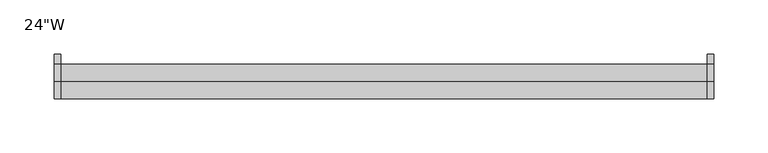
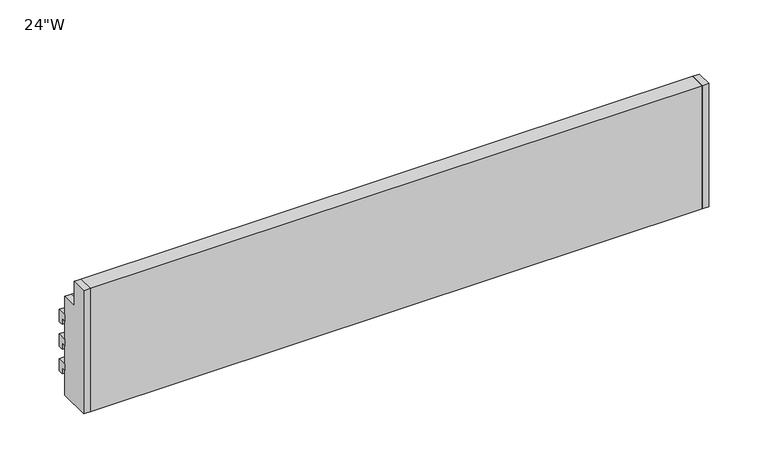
"""IFC4 building model written with IfcOpenShell, lengths in millimetres: furniture geometry."""

from ifc_helpers import new_model, si_unit, frame, origin, place, context, project, spatial, polyline, outline, extrude, source, transform, mapped, element, save


def furniture_abf02616(model_context):
    return source(origin(), model_context, "Body", "SweptSolid", [
        extrude(outline(polyline([(25.4, 349.25), (25.4, 336.55), (20.6375, 336.55), (20.6375, 342.9), (15.875, 342.9), (15.875, 349.25), (25.4, 349.25)])), frame((-304.8, 0.0, 0.0), z_axis=(1.0, 0.0, 0.0), x_axis=(0.0, 1.0, 0.0)), (0.0, 0.0, 1.0), 6.35),
        extrude(outline(polyline([(25.4, 323.85), (25.4, 311.15), (20.6375, 311.15), (20.6375, 317.5), (15.875, 317.5), (15.875, 323.85), (25.4, 323.85)])), frame((-304.8, 0.0, 0.0), z_axis=(1.0, 0.0, 0.0), x_axis=(0.0, 1.0, 0.0)), (0.0, 0.0, 1.0), 6.35),
        extrude(outline(polyline([(25.4, 298.45), (25.4, 285.75), (20.6375, 285.75), (20.6375, 292.1), (15.875, 292.1), (15.875, 298.45), (25.4, 298.45)])), frame((-304.8, 0.0, 0.0), z_axis=(1.0, 0.0, 0.0), x_axis=(0.0, 1.0, 0.0)), (0.0, 0.0, 1.0), 6.35),
        extrude(outline(polyline([(25.4, 349.25), (25.4, 336.55), (20.6375, 336.55), (20.6375, 342.9), (15.875, 342.9), (15.875, 349.25), (25.4, 349.25)])), frame((298.45, 0.0, 0.0), z_axis=(1.0, 0.0, 0.0), x_axis=(0.0, 1.0, 0.0)), (0.0, 0.0, 1.0), 6.35),
        extrude(outline(polyline([(25.4, 323.85), (25.4, 311.15), (20.6375, 311.15), (20.6375, 317.5), (15.875, 317.5), (15.875, 323.85), (25.4, 323.85)])), frame((298.45, 0.0, 0.0), z_axis=(1.0, 0.0, 0.0), x_axis=(0.0, 1.0, 0.0)), (0.0, 0.0, 1.0), 6.35),
        extrude(outline(polyline([(25.4, 298.45), (25.4, 285.75), (20.6375, 285.75), (20.6375, 292.1), (15.875, 292.1), (15.875, 298.45), (25.4, 298.45)])), frame((298.45, 0.0, 0.0), z_axis=(1.0, 0.0, 0.0), x_axis=(0.0, 1.0, 0.0)), (0.0, 0.0, 1.0), 6.35),
        extrude(outline(polyline([(0.0, 393.7), (0.0, 368.3), (15.875, 368.3), (15.875, 266.7), (-15.875, 266.7), (-15.875, 393.7), (0.0, 393.7)])), frame((-304.8, 0.0, 0.0), z_axis=(1.0, 0.0, 0.0), x_axis=(0.0, 1.0, 0.0)), (0.0, 0.0, 1.0), 6.35),
        extrude(outline(polyline([(0.0, 393.7), (0.0, 368.3), (15.875, 368.3), (15.875, 266.7), (-15.875, 266.7), (-15.875, 393.7), (0.0, 393.7)])), frame((298.45, 0.0, 0.0), z_axis=(1.0, 0.0, 0.0), x_axis=(0.0, 1.0, 0.0)), (0.0, 0.0, 1.0), 6.35),
        extrude(outline(polyline([(0.0, 393.7), (0.0, 368.3), (15.875, 368.3), (15.875, 266.7), (-15.875, 266.7), (-15.875, 393.7), (0.0, 393.7)])), frame((-298.45, 0.0, 0.0), z_axis=(1.0, 0.0, 0.0), x_axis=(0.0, 1.0, 0.0)), (0.0, 0.0, 1.0), 596.9),
    ])


if __name__ == "__main__":
    model = new_model("IFC4")
    model_context = context("Model", 3, world=origin())
    ifc_project = project(units=[si_unit("LENGTHUNIT", "METRE", prefix="MILLI")], contexts=[model_context])
    site = spatial("IfcSite", under=ifc_project)
    building = spatial("IfcBuilding", under=site)
    placement = place(None, origin())
    furniture_shape = furniture_abf02616(model_context)
    element("IfcFurniture", 1, ObjectType="HermanMiller_CoStruc_C1610_AdapterRail : 24\"W", at=placement, inside=building, context=model_context, shape_type="MappedRepresentation", body=[
        mapped(furniture_shape, transform((0.0, 0.0, 0.0), x_axis=(1.0, 0.0, 0.0), y_axis=(0.0, 1.0, 0.0), z_axis=(0.0, 0.0, 1.0))),
    ])
    save(model, "model.ifc")
